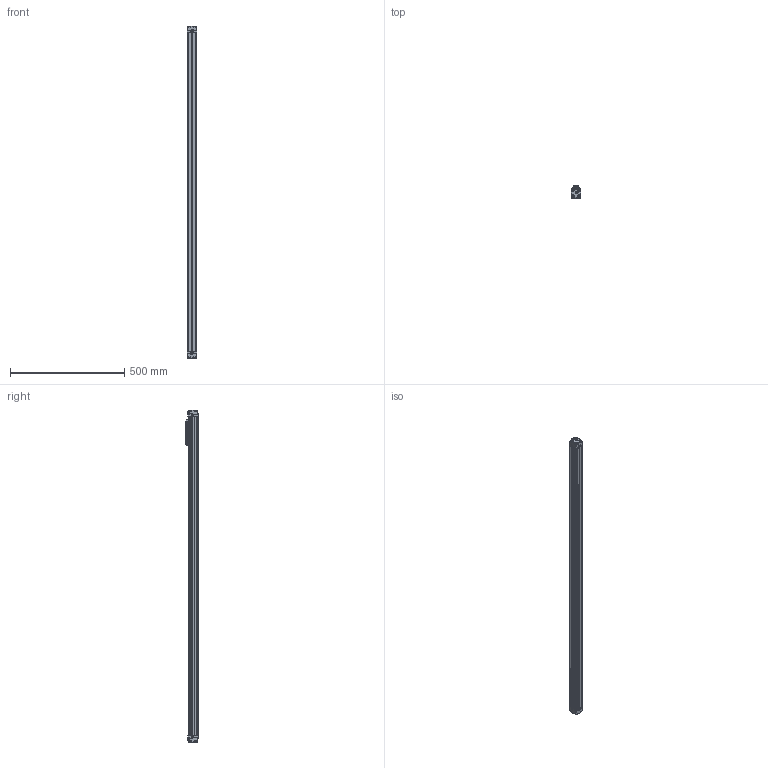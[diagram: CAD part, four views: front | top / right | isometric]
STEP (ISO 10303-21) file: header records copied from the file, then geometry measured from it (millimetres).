
FILE_DESCRIPTION (( 'STEP AP203' ), '1' );
FILE_NAME ('MXP25N_NP_SM1250.000_MXP-484980-1.step', '2025-03-30T17:50:25', ( '' ), ( '' ), 'SwSTEP 2.0', 'SolidWorks 2024', '' );
FILE_SCHEMA (( 'CONFIG_CONTROL_DESIGN' ));
Length unit declared in the file: inch
Products named in the file (3): 81259000_MXP25N_NP_SM1250.000_MXP-484980-1; MXP25N_NP_SM1250.000_MXP-484980-1; Base_MXP25N_NP_SM1250.000_MXP-484980-1
Assembly tree (2 placements, depth 2):
  MXP25N_NP_SM1250.000_MXP-484980-1
    81259000_MXP25N_NP_SM1250.000_MXP-484980-1
    Base_MXP25N_NP_SM1250.000_MXP-484980-1
Bounding box: 42 x 52.6 x 1450.3 mm (x, y, z)
Volume: 1613370.6 mm3; surface area: 470105.2 mm2
Topology: 2 solids, 13 shells, 865 faces, 2072 edges, 1284 vertices
Faces by surface type: plane 472, cylinder 231, cone 66, torus 48, bspline 32, sphere 16
Full cylindrical faces by diameter (mm): 3 x4, 3.3 x8, 3.5 x4, 4.064 x2, 4.2 x8, 4.699 x2, 5 x4, 5.5 x6, 6 x4, 6.4 x2, 7.544 x2, 8.433 x6, 10.16 x8, 24.5 x1
Entity records: 25102 total; most frequent: CARTESIAN_POINT 5379, DIRECTION 4099, ORIENTED_EDGE 3822, EDGE_CURVE 1911, AXIS2_PLACEMENT_3D 1432, VERTEX_POINT 1242, LINE 1235, VECTOR 1235
